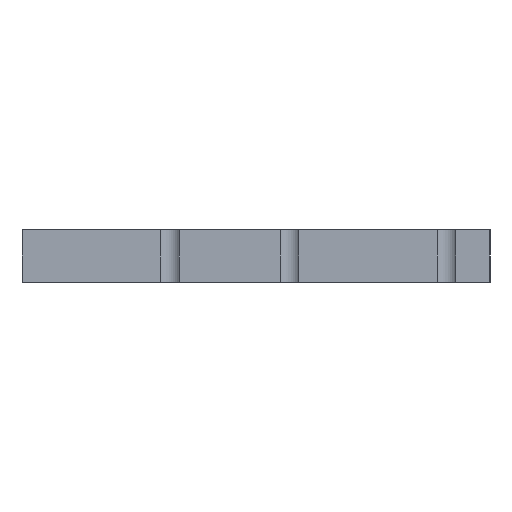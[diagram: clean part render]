
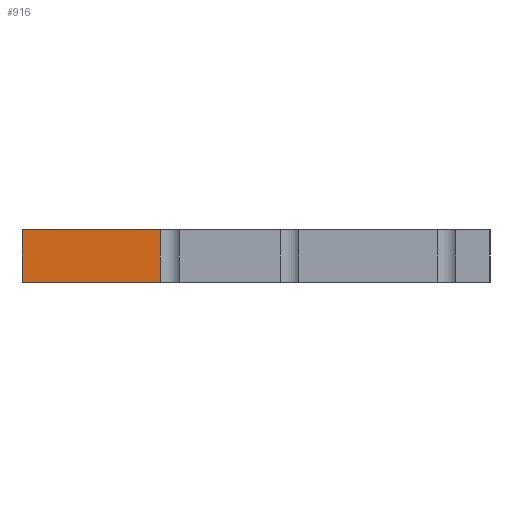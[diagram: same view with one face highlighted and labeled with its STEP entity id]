
A CAD part, left-side view. The second image highlights one B-rep face of the part: STEP entity #916.
In plain terms, the highlighted planar face has unit normal (-1, 0, 0).
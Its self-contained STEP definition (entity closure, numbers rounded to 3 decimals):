
#43=PLANE('',#1010);
#89=FACE_OUTER_BOUND('',#139,.T.);
#139=EDGE_LOOP('',(#838,#839,#840,#841));
#162=LINE('',#1333,#260);
#206=LINE('',#1458,#304);
#240=LINE('',#1535,#338);
#241=LINE('',#1537,#339);
#260=VECTOR('',#1057,10.);
#304=VECTOR('',#1181,10.);
#338=VECTOR('',#1263,10.);
#339=VECTOR('',#1266,10.);
#400=VERTEX_POINT('',#1330);
#401=VERTEX_POINT('',#1332);
#441=VERTEX_POINT('',#1455);
#442=VERTEX_POINT('',#1457);
#489=EDGE_CURVE('',#401,#400,#162,.T.);
#552=EDGE_CURVE('',#442,#441,#206,.T.);
#592=EDGE_CURVE('',#400,#442,#240,.T.);
#593=EDGE_CURVE('',#441,#401,#241,.T.);
#838=ORIENTED_EDGE('',*,*,#593,.T.);
#839=ORIENTED_EDGE('',*,*,#489,.T.);
#840=ORIENTED_EDGE('',*,*,#592,.T.);
#841=ORIENTED_EDGE('',*,*,#552,.T.);
#916=ADVANCED_FACE('',(#89),#43,.T.);
#1010=AXIS2_PLACEMENT_3D('',#1536,#1264,#1265);
#1057=DIRECTION('',(0.,-1.,0.));
#1181=DIRECTION('',(0.,1.,0.));
#1263=DIRECTION('',(0.,0.,1.));
#1264=DIRECTION('center_axis',(-1.,0.,0.));
#1265=DIRECTION('ref_axis',(0.,-1.,0.));
#1266=DIRECTION('',(0.,0.,-1.));
#1330=CARTESIAN_POINT('',(-14.997,-96.8,0.455));
#1332=CARTESIAN_POINT('',(-14.997,-65.3,0.455));
#1333=CARTESIAN_POINT('',(-14.997,-159.8,0.455));
#1455=CARTESIAN_POINT('',(-14.997,-65.3,12.455));
#1457=CARTESIAN_POINT('',(-14.997,-96.8,12.455));
#1458=CARTESIAN_POINT('',(-14.997,-65.3,12.455));
#1535=CARTESIAN_POINT('',(-14.997,-96.8,12.455));
#1536=CARTESIAN_POINT('Origin',(-14.997,-81.05,6.455));
#1537=CARTESIAN_POINT('',(-14.997,-65.3,0.455));
